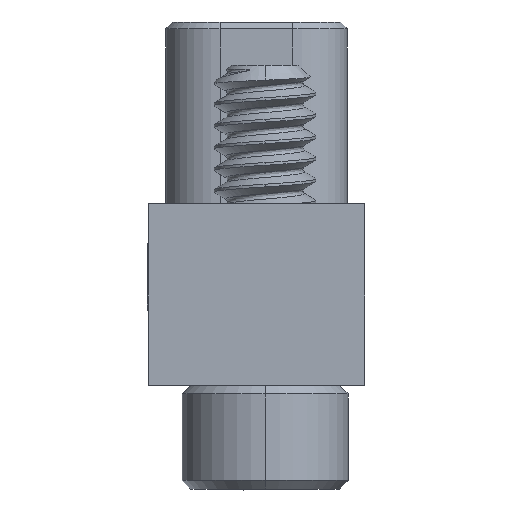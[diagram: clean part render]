
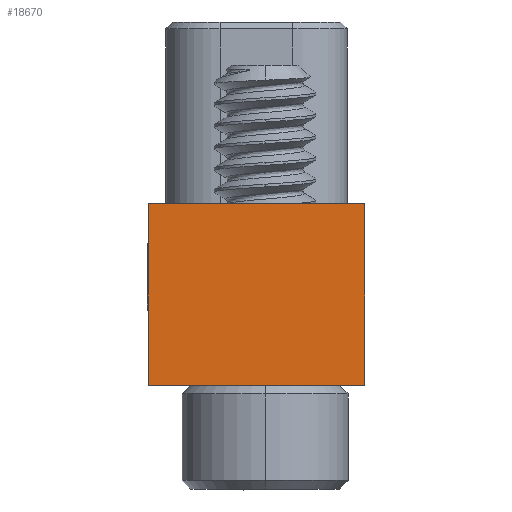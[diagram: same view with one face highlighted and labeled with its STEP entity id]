
A CAD part, left-side view. The second image highlights one B-rep face of the part: STEP entity #18670.
In plain terms, the highlighted planar face has unit normal (-1, 0, 0).
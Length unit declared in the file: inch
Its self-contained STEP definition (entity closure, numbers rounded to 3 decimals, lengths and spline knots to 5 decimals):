
#245 = DIRECTION ( 'NONE',  ( 0., 0., -1. ) ) ;
#575 = DIRECTION ( 'NONE',  ( 0., 0., -1. ) ) ;
#2301 = LINE ( 'NONE', #17239, #7871 ) ;
#2663 = DIRECTION ( 'NONE',  ( 0., -1., 0. ) ) ;
#4819 = CARTESIAN_POINT ( 'NONE',  ( -0.2625, -0.0575, 0. ) ) ;
#5714 = DIRECTION ( 'NONE',  ( 0., -1., 0. ) ) ;
#6882 = ORIENTED_EDGE ( 'NONE', *, *, #10602, .T. ) ;
#7101 = VERTEX_POINT ( 'NONE', #11255 ) ;
#7421 = CARTESIAN_POINT ( 'NONE',  ( -0.2625, 0.0675, -0.105 ) ) ;
#7871 = VECTOR ( 'NONE', #2663, 39.37008 ) ;
#7955 = ORIENTED_EDGE ( 'NONE', *, *, #19457, .F. ) ;
#8122 = VERTEX_POINT ( 'NONE', #4819 ) ;
#9316 = VERTEX_POINT ( 'NONE', #7421 ) ;
#10081 = LINE ( 'NONE', #18150, #25375 ) ;
#10602 = EDGE_CURVE ( 'NONE', #9316, #22925, #10081, .T. ) ;
#11004 = PLANE ( 'NONE',  #17322 ) ;
#11255 = CARTESIAN_POINT ( 'NONE',  ( -0.2625, 0.0675, 0. ) ) ;
#11457 = EDGE_CURVE ( 'NONE', #7101, #9316, #20119, .T. ) ;
#12397 = ORIENTED_EDGE ( 'NONE', *, *, #11457, .T. ) ;
#13107 = DIRECTION ( 'NONE',  ( 1., 0., 0. ) ) ;
#13248 = CARTESIAN_POINT ( 'NONE',  ( -0.2625, -0.0575, -0.105 ) ) ;
#13547 = FACE_OUTER_BOUND ( 'NONE', #19693, .T. ) ;
#14607 = VECTOR ( 'NONE', #245, 39.37008 ) ;
#17084 = VECTOR ( 'NONE', #19863, 39.37008 ) ;
#17239 = CARTESIAN_POINT ( 'NONE',  ( -0.2625, -0.0575, 0. ) ) ;
#17322 = AXIS2_PLACEMENT_3D ( 'NONE', #23203, #13107, #575 ) ;
#17599 = EDGE_CURVE ( 'NONE', #7101, #8122, #2301, .T. ) ;
#17728 = LINE ( 'NONE', #24062, #17084 ) ;
#18150 = CARTESIAN_POINT ( 'NONE',  ( -0.2625, -0.0575, -0.105 ) ) ;
#18670 = ADVANCED_FACE ( 'NONE', ( #13547 ), #11004, .F. ) ;
#18932 = CARTESIAN_POINT ( 'NONE',  ( -0.2625, 0.0675, 0.105 ) ) ;
#18988 = ORIENTED_EDGE ( 'NONE', *, *, #17599, .F. ) ;
#19457 = EDGE_CURVE ( 'NONE', #8122, #22925, #17728, .T. ) ;
#19693 = EDGE_LOOP ( 'NONE', ( #18988, #12397, #6882, #7955 ) ) ;
#19863 = DIRECTION ( 'NONE',  ( 0., 0., -1. ) ) ;
#20119 = LINE ( 'NONE', #18932, #14607 ) ;
#22925 = VERTEX_POINT ( 'NONE', #13248 ) ;
#23203 = CARTESIAN_POINT ( 'NONE',  ( -0.2625, -0.0575, 0.105 ) ) ;
#24062 = CARTESIAN_POINT ( 'NONE',  ( -0.2625, -0.0575, 0.105 ) ) ;
#25375 = VECTOR ( 'NONE', #5714, 39.37008 ) ;
